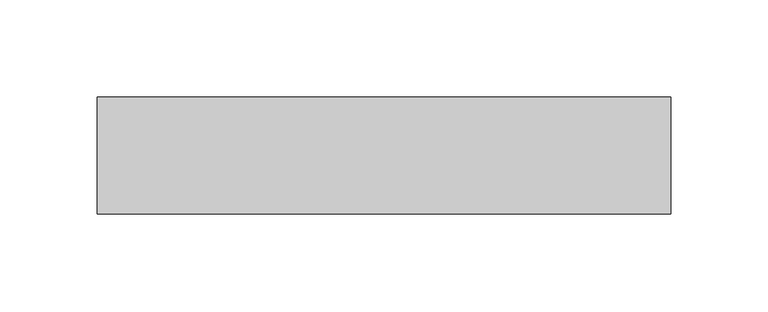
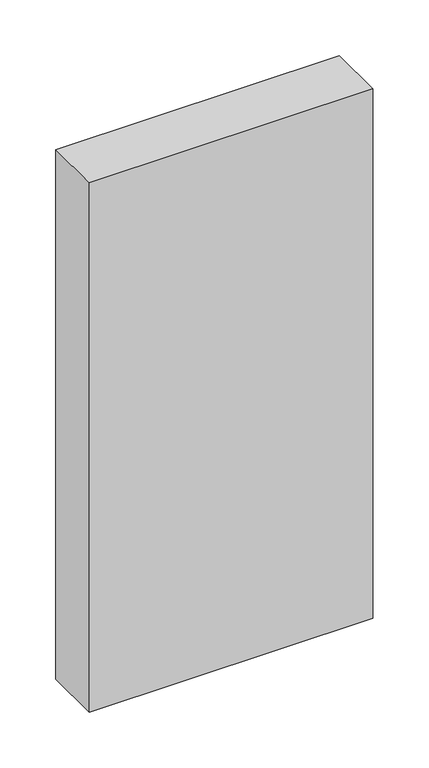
"""IFC4 building model written with IfcOpenShell, lengths in millimetres: plate geometry, Системная панель : Алюкобонд серый."""

from ifc_helpers import new_model, si_unit, origin, origin_with_axes, place, context, project, spatial, polyline, outline, extrude, source, transform, mapped, element, save


def plate_155ad0a3(model_context):
    return source(origin(), model_context, "Body", "SweptSolid", [
        extrude(outline(polyline([(147.0, -10.5), (-147.0, -10.5), (-147.0, 49.5), (147.0, 49.5), (147.0, -10.5)])), origin_with_axes(), (0.0, 0.0, 1.0), 580.0),
    ])


if __name__ == "__main__":
    model = new_model("IFC4")
    model_context = context("Model", 3, world=origin())
    ifc_project = project(units=[si_unit("LENGTHUNIT", "METRE", prefix="MILLI")], contexts=[model_context])
    site = spatial("IfcSite", under=ifc_project)
    building = spatial("IfcBuilding", under=site)
    placement = place(None, origin())
    plate_shape = plate_155ad0a3(model_context)
    element("IfcPlate", 1, ObjectType="Системная панель : Алюкобонд серый", at=placement, inside=building, context=model_context, shape_type="MappedRepresentation", body=[
        mapped(plate_shape, transform((0.0, 0.0, 0.0), x_axis=(1.0, 0.0, 0.0), y_axis=(0.0, 1.0, 0.0), z_axis=(0.0, 0.0, 1.0))),
    ])
    save(model, "model.ifc")
